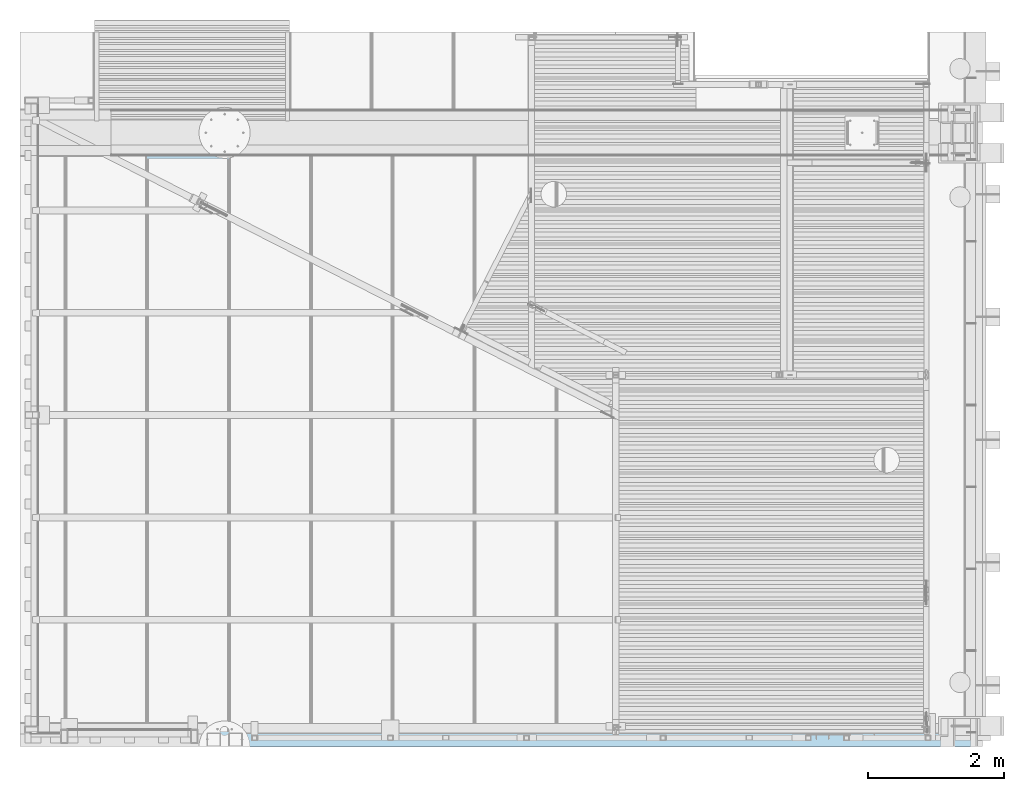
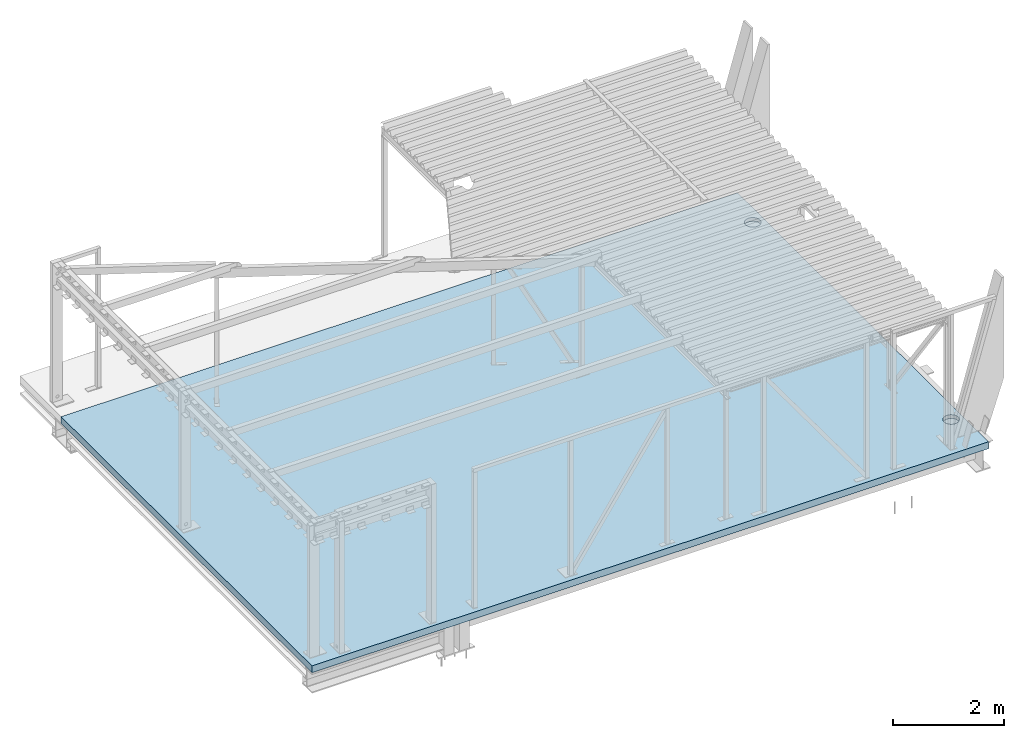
# One storey, part 26 of 30: 1 slab.
"""IFC2X3 building model written with IfcOpenShell, lengths in millimetres."""

from ifc_helpers import new_model, entity, si_unit, converted_unit, derived_unit, direction, frame, origin_with_axes, place, context, subcontext, project, spatial, faceted_brep, type_object, element, save


model = new_model("IFC2X3")

# Units and contexts
model_context = context("Model", 3, precision=0.01, world=frame((0.0, 4.29681676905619e-09, 0.0)), true_north=direction((4.01073788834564e-13, 1.0)))
plan_context = context("Plan", 3, precision=0.01, world=frame((0.0, 4.29681676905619e-09, 0.0)), true_north=direction((4.01073788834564e-13, 1.0)))
body_context = subcontext(model_context, "Body", "Model", "MODEL_VIEW")
ifc_project = project(units=[converted_unit("PLANEANGLEUNIT", "DEGREE", entity("IfcPositiveLengthMeasure", 0.0174532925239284), si_unit("PLANEANGLEUNIT", "RADIAN"), dimensions=[0, 0, 0, 0, 0, 0, 0]), si_unit("AREAUNIT", "SQUARE_METRE"), si_unit("LENGTHUNIT", "METRE", prefix="MILLI"), si_unit("MASSUNIT", "GRAM", prefix="KILO"), si_unit("POWERUNIT", "WATT"), si_unit("PRESSUREUNIT", "PASCAL"), si_unit("FORCEUNIT", "NEWTON", prefix="KILO"), si_unit("ELECTRICVOLTAGEUNIT", "VOLT"), si_unit("ELECTRICCURRENTUNIT", "AMPERE"), si_unit("THERMODYNAMICTEMPERATUREUNIT", "DEGREE_CELSIUS"), si_unit("TIMEUNIT", "SECOND"), si_unit("VOLUMEUNIT", "CUBIC_METRE"), derived_unit("LINEARVELOCITYUNIT", [(si_unit("LENGTHUNIT", "METRE"), 1), (si_unit("TIMEUNIT", "SECOND"), -1)]), derived_unit("VOLUMETRICFLOWRATEUNIT", [(si_unit("VOLUMEUNIT", "CUBIC_METRE"), 1), (si_unit("TIMEUNIT", "SECOND"), -1)]), derived_unit("THERMALTRANSMITTANCEUNIT", [(si_unit("POWERUNIT", "WATT"), 1), (si_unit("THERMODYNAMICTEMPERATUREUNIT", "KELVIN"), -1), (si_unit("AREAUNIT", "SQUARE_METRE"), -1)]), derived_unit("SOUNDPRESSUREUNIT", [(si_unit("PRESSUREUNIT", "PASCAL"), 1)])], contexts=[model_context, plan_context])

# Site, building, storey
site_placement = place(None, frame((0.0, -4.29681676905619e-09, 0.0), z_axis=(0.0, 0.0, 1.0), x_axis=(1.0, 0.0, 0.0)))
site = spatial("IfcSite", under=ifc_project, at=site_placement, Name="Gardermoen", CompositionType="ELEMENT")
building_placement = place(site_placement, frame((0.0, 4.29681676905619e-09, 0.0), z_axis=(0.0, 0.0, 1.0), x_axis=(1.0, 0.0, 0.0)))
building = spatial("IfcBuilding", under=site, at=building_placement, Name="TI", CompositionType="ELEMENT")
storey_placement = place(building_placement, origin_with_axes())
storey = spatial("IfcBuildingStorey", under=building, at=storey_placement, Name="F", CompositionType="ELEMENT", Elevation=0.0)

# Slab
slab_type = type_object("IfcSlabType", Name="150*9000", PredefinedType="NOTDEFINED")
slab_placement = place(storey_placement, frame((571984.997639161, 689000.0, 210755.0), z_axis=(0.0, 1.0, 0.0), x_axis=(1.0, 0.0, 0.0)))
element("IfcSlab", 1, at=slab_placement, inside=storey, type_object=slab_type, Name="PÅSTØP", ObjectType="150*9000", PredefinedType="FLOOR", context=body_context, shape_type="Brep", body=[
    faceted_brep([(39650.7246469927, 5.00000001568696, 8074.70257101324), (39652.8845639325, 5.00000001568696, 8089.26354826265), (39661.4204261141, 5.00000001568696, 8117.402514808), (39675.281914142, 5.00000001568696, 8143.33553489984), (39693.9363388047, 5.00000001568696, 8166.06601711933), (39716.666821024, 5.00000001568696, 8184.72044178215), (39742.5998411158, 5.00000001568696, 8198.58192981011), (39770.7388076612, 5.00000001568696, 8207.1177919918), (39800.0023559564, 5.00000001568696, 8209.99999993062), (39829.2659042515, 5.00000001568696, 8207.1177919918), (39857.4048707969, 5.00000001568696, 8198.58192981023), (39883.3378908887, 5.00000001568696, 8184.72044178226), (39906.0683731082, 5.00000001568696, 8166.06601711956), (39924.7227977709, 5.00000001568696, 8143.33553490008), (39938.5842857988, 5.00000001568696, 8117.40251480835), (39947.1201479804, 5.00000001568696, 8089.263548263), (39950.0023559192, 5.00000001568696, 8059.99999996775), (39947.1201479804, 5.00000001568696, 8030.73645167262), (39938.5842857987, 5.00000001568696, 8002.59748512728), (39924.7227977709, 5.00000001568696, 7976.66446503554), (39906.068373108, 5.00000001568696, 7953.93398281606), (39883.3378908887, 5.00000001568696, 7935.27955815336), (39857.4048707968, 5.00000001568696, 7921.41807012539), (39829.2659042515, 5.00000001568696, 7912.88220794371), (39800.0023559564, 5.00000001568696, 7910.00000000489), (39770.7388076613, 5.00000001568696, 7912.88220794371), (39742.599841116, 5.00000001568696, 7921.41807012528), (39716.6668210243, 5.00000001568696, 7935.27955815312), (39693.9363388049, 5.00000001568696, 7953.93398281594), (39675.2819141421, 5.00000001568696, 7976.66446503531), (39661.4204261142, 5.00000001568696, 8002.59748512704), (39652.8845639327, 5.00000001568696, 8030.73645167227), (39650.7246469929, 5.00000001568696, 8045.29742892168), (39650.0023559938, 5.00000001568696, 8059.99999996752), (39947.1201479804, -75.0, 8089.263548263), (39938.5842857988, -75.0, 8117.40251480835), (39950.0023559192, -75.0, 8059.99999996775), (39947.1201479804, -75.0, 8030.73645167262), (39938.5842857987, -75.0, 8002.59748512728), (39924.7227977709, -75.0, 7976.66446503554), (39906.068373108, -75.0, 7953.93398281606), (39883.3378908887, -75.0, 7935.27955815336), (39857.4048707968, -75.0, 7921.41807012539), (39829.2659042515, -75.0, 7912.88220794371), (39800.0023559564, -75.0, 7910.00000000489), (39770.7388076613, -75.0, 7912.88220794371), (39742.599841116, -75.0, 7921.41807012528), (39716.6668210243, -75.0, 7935.27955815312), (39693.9363388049, -75.0, 7953.93398281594), (39675.2819141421, -75.0, 7976.66446503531), (39661.4204261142, -75.0, 8002.59748512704), (39652.8845639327, -75.0, 8030.73645167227), (39650.7246469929, -75.0, 8045.29742892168), (39650.0023559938, -75.0, 8059.99999996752), (39650.7246469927, -75.0, 8074.70257101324), (39652.8845639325, -75.0, 8089.26354826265), (39661.4204261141, -75.0, 8117.402514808), (39675.281914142, -75.0, 8143.33553489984), (39693.9363388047, -75.0, 8166.06601711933), (39716.666821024, -75.0, 8184.72044178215), (39742.5998411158, -75.0, 8198.58192981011), (39770.7388076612, -75.0, 8207.1177919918), (39800.0023559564, -75.0, 8209.99999993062), (39829.2659042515, -75.0, 8207.1177919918), (39857.4048707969, -75.0, 8198.58192981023), (39883.3378908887, -75.0, 8184.72044178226), (39906.0683731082, -75.0, 8166.06601711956), (39924.7227977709, -75.0, 8143.33553490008), (26015.0023607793, -75.0, 9000.00000139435), (26015.0023607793, 75.0, 9000.00000139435), (40029.996093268, 75.0, 9000.00000214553), (40029.996093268, -75.0, 9000.00000214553), (40029.9921875, 75.0, -1.39698386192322e-07), (40029.9921875, -75.0, -1.39698386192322e-07), (26015.0023607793, 75.0, -9.97715687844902e-10), (26015.0023607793, -74.9999999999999, -9.97715687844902e-10), (39650.7246469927, 5.00000001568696, 954.702571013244), (39652.8845639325, 5.00000001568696, 969.26354826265), (39661.4204261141, 5.00000001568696, 997.402514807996), (39675.281914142, 5.00000001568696, 1023.33553489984), (39693.9363388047, 5.00000001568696, 1046.06601711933), (39716.666821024, 5.00000001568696, 1064.72044178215), (39742.5998411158, 5.00000001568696, 1078.58192981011), (39770.7388076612, 5.00000001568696, 1087.1177919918), (39800.0023559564, 5.00000001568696, 1089.99999993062), (39829.2659042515, 5.00000001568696, 1087.1177919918), (39857.4048707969, 5.00000001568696, 1078.58192981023), (39883.3378908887, 5.00000001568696, 1064.72044178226), (39906.0683731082, 5.00000001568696, 1046.06601711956), (39924.7227977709, 5.00000001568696, 1023.33553490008), (39938.5842857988, 5.00000001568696, 997.402514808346), (39947.1201479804, 5.00000001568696, 969.263548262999), (39950.0023559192, 5.00000001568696, 939.999999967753), (39947.1201479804, 5.00000001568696, 910.736451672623), (39938.5842857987, 5.00000001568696, 882.597485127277), (39924.7227977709, 5.00000001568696, 856.664465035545), (39906.068373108, 5.00000001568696, 833.933982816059), (39883.3378908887, 5.00000001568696, 815.279558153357), (39857.4048707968, 5.00000001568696, 801.418070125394), (39829.2659042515, 5.00000001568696, 792.882207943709), (39800.0023559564, 5.00000001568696, 790.000000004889), (39770.7388076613, 5.00000001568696, 792.882207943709), (39742.599841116, 5.00000001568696, 801.418070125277), (39716.6668210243, 5.00000001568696, 815.279558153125), (39693.9363388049, 5.00000001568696, 833.933982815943), (39675.2819141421, 5.00000001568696, 856.664465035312), (39661.4204261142, 5.00000001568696, 882.597485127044), (39652.8845639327, 5.00000001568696, 910.736451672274), (39650.7246469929, 5.00000001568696, 925.29742892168), (39650.0023559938, 5.00000001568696, 939.99999996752), (39950.0023559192, -75.0, 939.999999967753), (39947.1201479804, -75.0, 969.263548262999), (39947.1201479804, -75.0, 910.736451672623), (39938.5842857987, -75.0, 882.597485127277), (39924.7227977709, -75.0, 856.664465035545), (39906.068373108, -75.0, 833.933982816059), (39883.3378908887, -75.0, 815.279558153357), (39857.4048707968, -75.0, 801.418070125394), (39829.2659042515, -75.0, 792.882207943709), (39800.0023559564, -75.0, 790.000000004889), (39770.7388076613, -75.0, 792.882207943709), (39742.599841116, -75.0, 801.418070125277), (39716.6668210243, -75.0, 815.279558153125), (39693.9363388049, -75.0, 833.933982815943), (39675.2819141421, -75.0, 856.664465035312), (39661.4204261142, -75.0, 882.597485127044), (39652.8845639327, -75.0, 910.736451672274), (39650.7246469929, -75.0, 925.29742892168), (39650.0023559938, -75.0, 939.99999996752), (39650.7246469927, -75.0, 954.702571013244), (39652.8845639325, -75.0, 969.26354826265), (39661.4204261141, -75.0, 997.402514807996), (39675.281914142, -75.0, 1023.33553489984), (39693.9363388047, -75.0, 1046.06601711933), (39716.666821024, -75.0, 1064.72044178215), (39742.5998411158, -75.0, 1078.58192981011), (39770.7388076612, -75.0, 1087.1177919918), (39800.0023559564, -75.0, 1089.99999993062), (39829.2659042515, -75.0, 1087.1177919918), (39857.4048707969, -75.0, 1078.58192981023), (39883.3378908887, -75.0, 1064.72044178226), (39906.0683731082, -75.0, 1046.06601711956), (39924.7227977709, -75.0, 1023.33553490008), (39938.5842857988, -75.0, 997.402514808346)], [[[0, 1, 2, 3, 4, 5, 6, 7, 8, 9, 10, 11, 12, 13, 14, 15, 16, 17, 18, 19, 20, 21, 22, 23, 24, 25, 26, 27, 28, 29, 30, 31, 32, 33]], [[34, 15, 14, 35]], [[36, 16, 15, 34]], [[37, 17, 16, 36]], [[38, 18, 17, 37]], [[39, 19, 18, 38]], [[40, 20, 19, 39]], [[41, 21, 20, 40]], [[42, 22, 21, 41]], [[43, 23, 22, 42]], [[44, 24, 23, 43]], [[45, 25, 24, 44]], [[46, 26, 25, 45]], [[47, 27, 26, 46]], [[48, 28, 27, 47]], [[49, 29, 28, 48]], [[50, 30, 29, 49]], [[51, 31, 30, 50]], [[52, 32, 31, 51]], [[53, 33, 32, 52]], [[54, 0, 33, 53]], [[55, 1, 0, 54]], [[56, 2, 1, 55]], [[57, 3, 2, 56]], [[58, 4, 3, 57]], [[59, 5, 4, 58]], [[60, 6, 5, 59]], [[61, 7, 6, 60]], [[62, 8, 7, 61]], [[63, 9, 8, 62]], [[64, 10, 9, 63]], [[65, 11, 10, 64]], [[66, 12, 11, 65]], [[67, 13, 12, 66]], [[35, 14, 13, 67]], [[68, 69, 70, 71]], [[70, 72, 73, 71]], [[74, 75, 73, 72]], [[69, 74, 72, 70]], [[76, 77, 78, 79, 80, 81, 82, 83, 84, 85, 86, 87, 88, 89, 90, 91, 92, 93, 94, 95, 96, 97, 98, 99, 100, 101, 102, 103, 104, 105, 106, 107, 108, 109]], [[110, 92, 91, 111]], [[112, 93, 92, 110]], [[113, 94, 93, 112]], [[114, 95, 94, 113]], [[115, 96, 95, 114]], [[116, 97, 96, 115]], [[117, 98, 97, 116]], [[118, 99, 98, 117]], [[119, 100, 99, 118]], [[120, 101, 100, 119]], [[121, 102, 101, 120]], [[122, 103, 102, 121]], [[123, 104, 103, 122]], [[124, 105, 104, 123]], [[125, 106, 105, 124]], [[126, 107, 106, 125]], [[127, 108, 107, 126]], [[128, 109, 108, 127]], [[129, 76, 109, 128]], [[130, 77, 76, 129]], [[131, 78, 77, 130]], [[132, 79, 78, 131]], [[133, 80, 79, 132]], [[134, 81, 80, 133]], [[135, 82, 81, 134]], [[136, 83, 82, 135]], [[137, 84, 83, 136]], [[138, 85, 84, 137]], [[139, 86, 85, 138]], [[140, 87, 86, 139]], [[141, 88, 87, 140]], [[142, 89, 88, 141]], [[143, 90, 89, 142]], [[111, 91, 90, 143]], [[75, 68, 71, 73], [37, 36, 34, 35, 67, 66, 65, 64, 63, 62, 61, 60, 59, 58, 57, 56, 55, 54, 53, 52, 51, 50, 49, 48, 47, 46, 45, 44, 43, 42, 41, 40, 39, 38], [112, 110, 111, 143, 142, 141, 140, 139, 138, 137, 136, 135, 134, 133, 132, 131, 130, 129, 128, 127, 126, 125, 124, 123, 122, 121, 120, 119, 118, 117, 116, 115, 114, 113]], [[74, 69, 68, 75]]], orient=[[False], [False], [False], [False], [False], [False], [False], [False], [False], [False], [False], [False], [False], [False], [False], [False], [False], [False], [False], [False], [False], [False], [False], [False], [False], [False], [False], [False], [False], [False], [False], [False], [False], [False], [False], [False], [False], [False], [False], [False], [False], [False], [False], [False], [False], [False], [False], [False], [False], [False], [False], [False], [False], [False], [False], [False], [False], [False], [False], [False], [False], [False], [False], [False], [False], [False], [False], [False], [False], [False], [False], [False], [False], [False], [False, False, False], [False]]),
])

save(model, "model.ifc")
